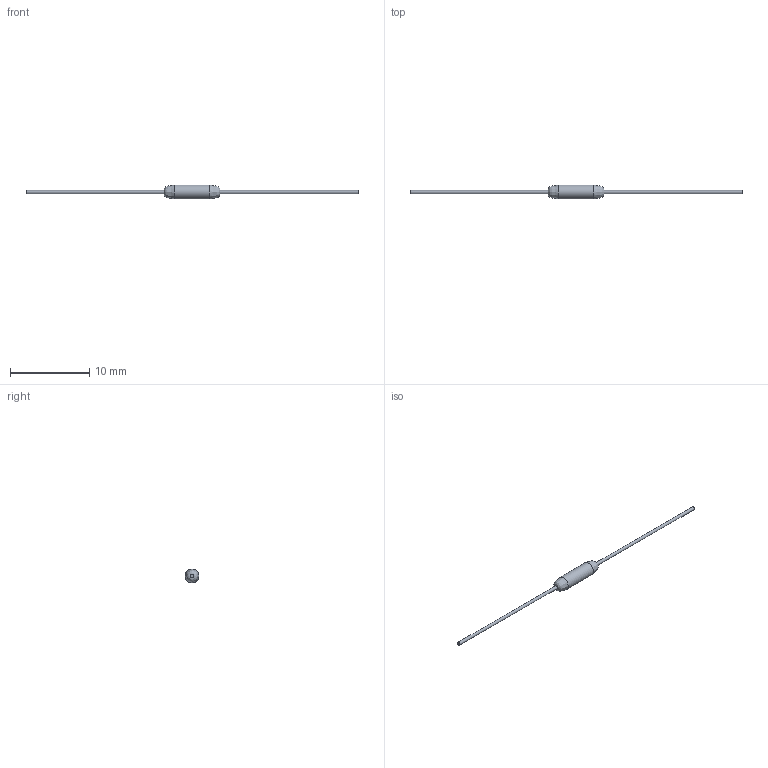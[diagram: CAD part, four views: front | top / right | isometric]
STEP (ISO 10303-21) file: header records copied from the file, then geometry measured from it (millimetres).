
FILE_DESCRIPTION (( 'STEP AP214' ), '1' );
FILE_NAME ('MKA-07101.STEP', '2026-01-22T05:26:02', ( '' ), ( '' ), 'SwSTEP 2.0', 'SolidWorks 2021', '' );
FILE_SCHEMA (( 'AUTOMOTIVE_DESIGN' ));
Length unit declared in the file: millimetre
Products named in the file (4): MKA-07101; S Êîíòàêò äåòàëü 07101_‚ë¢®¤ 10110; 扻錆趑邋謤鍙 07101; 0 Êîíòàêò äåòàëü 07101_10110
Assembly tree (5 placements, depth 2):
  MKA-07101
    0 Êîíòàêò äåòàëü 07101_10110  x2
    扻錆趑邋謤鍙 07101
    S Êîíòàêò äåòàëü 07101_‚ë¢®¤ 10110  x2
Bounding box: 41.8 x 1.75 x 1.75 mm (x, y, z)
Volume: 13.5 mm3; surface area: 118.6 mm2
Topology: 5 solids, 5 shells, 68 faces, 136 edges, 76 vertices
Faces by surface type: plane 32, cylinder 18, bspline 18
Full cylindrical faces by diameter (mm): 0.397 x2, 0.4 x6, 1.25 x1, 1.745 x1
Entity records: 1591 total; most frequent: CARTESIAN_POINT 748, DIRECTION 126, ORIENTED_EDGE 126, EDGE_CURVE 63, AXIS2_PLACEMENT_3D 54, EDGE_LOOP 50, FACE_OUTER_BOUND 50, VERTEX_POINT 41
